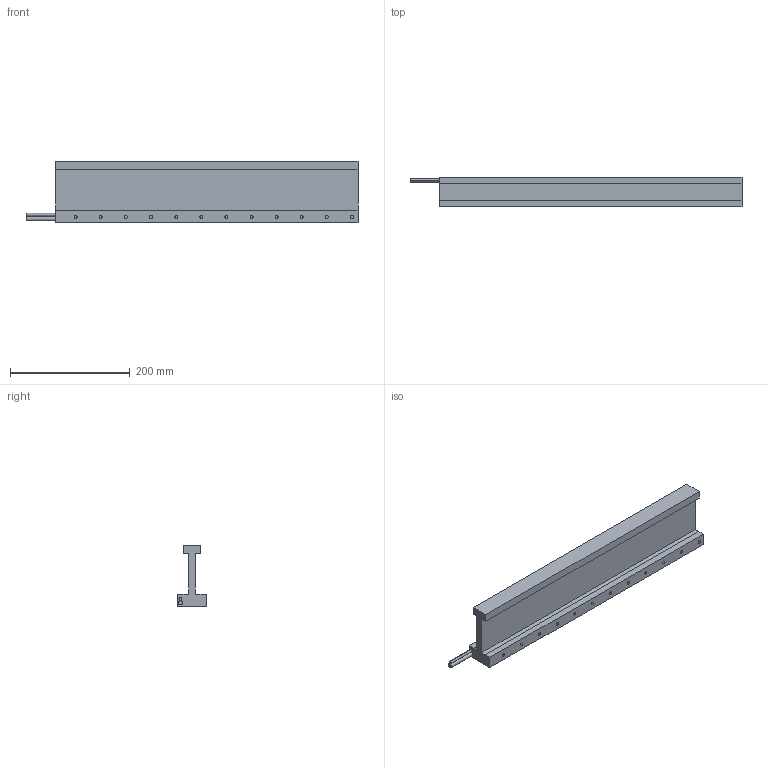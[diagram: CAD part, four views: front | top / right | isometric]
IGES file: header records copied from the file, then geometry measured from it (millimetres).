
Start section: SolidWorks IGES file using analytic representation for surfaces
Global section: file name: C:\Users\admin\Desktop\LM无铁芯U型电机 - 副本\FU700模型图\FU700-505.IGS; native system: SolidWorks 2016; preprocessor: SolidWorks 2016; author: admin; date: 201103.134637; units: millimetre
Bounding box: 555 x 49 x 103.5 mm (x, y, z)
Surface area: 185083.6 mm2 (no closed solid volume)
Topology: 0 solids, 0 shells, 183 faces, 2988 edges, 2942 vertices
Faces by surface type: revolution 142, bspline 41
